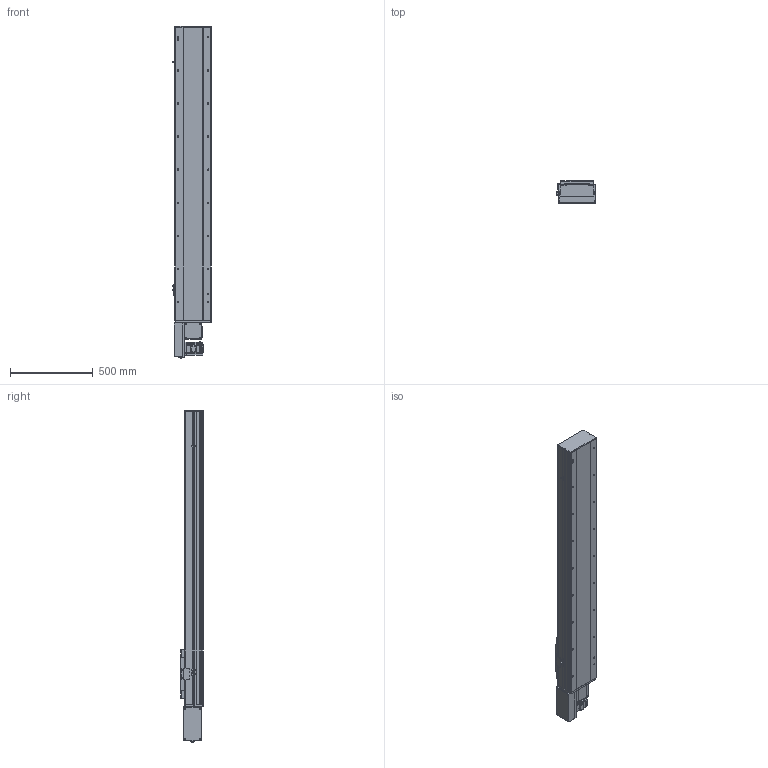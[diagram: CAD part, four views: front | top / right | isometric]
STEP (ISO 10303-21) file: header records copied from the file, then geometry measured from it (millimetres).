
FILE_DESCRIPTION (( 'STEP AP214' ), '1' );
FILE_NAME ('TPE22-L40-1350-R-T75-C4.STEP', '2023-04-13T00:41:45', ( '' ), ( '' ), 'SwSTEP 2.0', 'SolidWorks 2020', '' );
FILE_SCHEMA (( 'AUTOMOTIVE_DESIGN' ));
Length unit declared in the file: millimetre
Products named in the file (10): hexagon head bolts-full thread gb_GB_FASTENER_BOLT_STBAB A M5X16-N; 葩璃 TPE22-L-007 々湍釱^TPE22-L40-R-T75-C4; 葩璃 MSMD08PC_P75^TPE22-L40-R-T75-C4; 葩璃 TPE22-L-002 耜裔ZTMZ-220-04^TPE22-L40-R-T75-C4; 葩璃 TPT22-L-009 萇儂啣^TPE22-L40-R-T75-C4; 葩璃 詩湍150^TPE22-L40-R-T75-C4; 葩璃 pm-t65-672^TPE22-L40-R-T75-C4; TPE22-L40-1350-R-T75-C4; 葩璃 TPE22-L-001 菁釱MZ-220-01^TPE22-L40-R-T75-C4; 葩璃 TPE22 賑雄殤^TPE22-L40-R-T75-C4
Assembly tree (12 placements, depth 2):
  TPE22-L40-1350-R-T75-C4
    葩璃 TPE22-L-001 菁釱MZ-220-01^TPE22-L40-R-T75-C4
    葩璃 TPE22-L-002 耜裔ZTMZ-220-04^TPE22-L40-R-T75-C4  x2
    葩璃 詩湍150^TPE22-L40-R-T75-C4
    葩璃 TPE22-L-007 々湍釱^TPE22-L40-R-T75-C4
    葩璃 TPT22-L-009 萇儂啣^TPE22-L40-R-T75-C4
    葩璃 TPE22 賑雄殤^TPE22-L40-R-T75-C4
    葩璃 pm-t65-672^TPE22-L40-R-T75-C4  x3
    葩璃 MSMD08PC_P75^TPE22-L40-R-T75-C4
    hexagon head bolts-full thread gb_GB_FASTENER_BOLT_STBAB A M5X16-N
Bounding box: 233.7 x 138 x 2005.65 mm (x, y, z)
Volume: 21378507.9 mm3; surface area: 3162085.2 mm2
Topology: 22 solids, 22 shells, 1757 faces, 4619 edges, 2945 vertices
Faces by surface type: plane 1039, cylinder 576, cone 112, bspline 30
Entity records: 49658 total; most frequent: CARTESIAN_POINT 10271, DIRECTION 7810, ORIENTED_EDGE 7718, EDGE_CURVE 3859, VECTOR 2632, LINE 2632, AXIS2_PLACEMENT_3D 2589, VERTEX_POINT 2489
